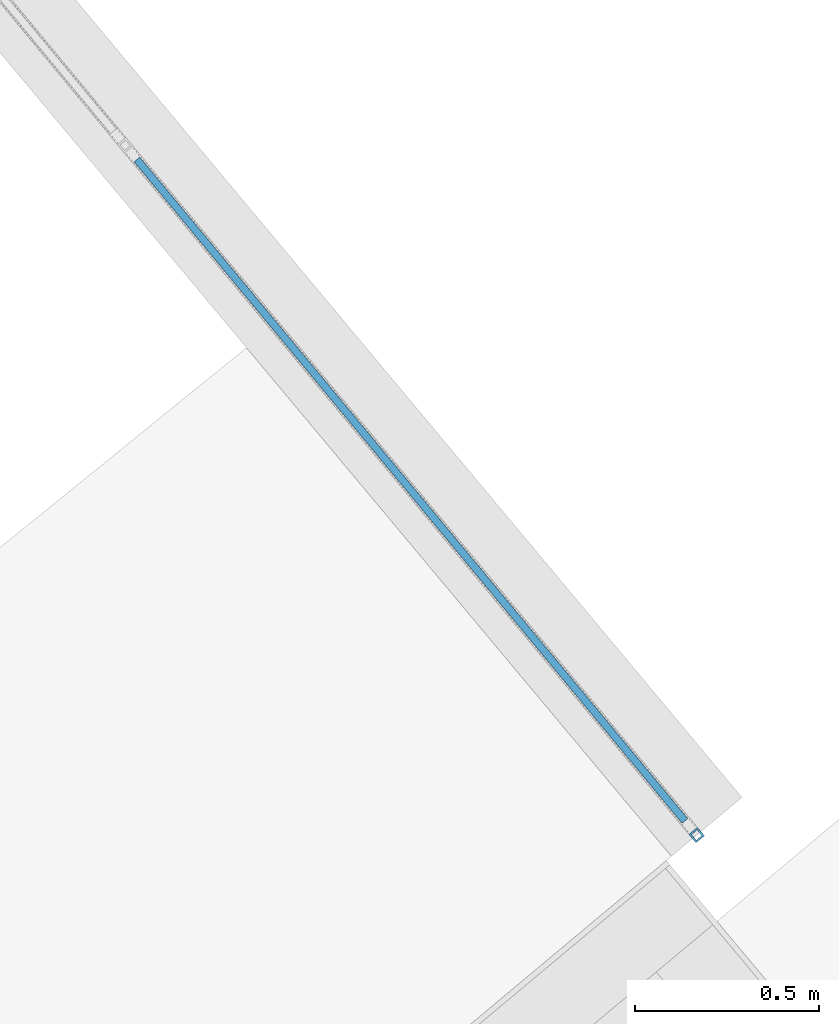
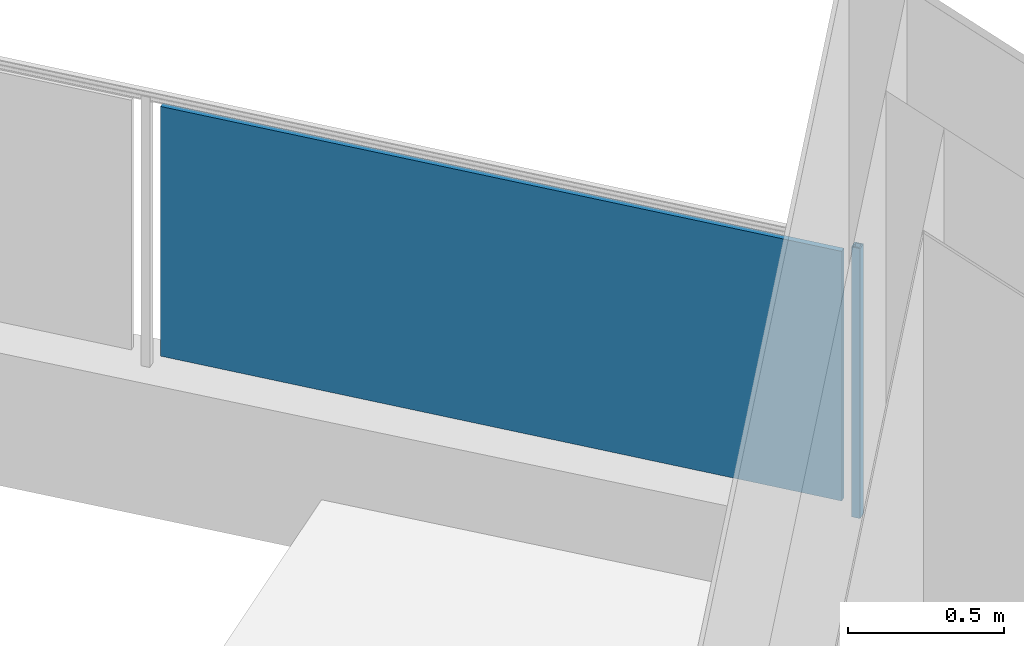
# One storey, part 46 of 67: 2 building element parts, 1 element without a shape of its own.
"""IFC4 building model written with IfcOpenShell, lengths in metres."""

from ifc_helpers import new_model, entity, si_unit, converted_unit, derived_unit, direction, frame, origin_with_axes, place, context, subcontext, project, spatial, polygons, material, type_object, element, aggregate, save


model = new_model("IFC4")

# Units and contexts
model_context = context("Model", 3, precision=1e-05, world=origin_with_axes(), true_north=direction((0.0, 1.0)))
body_context = subcontext(model_context, "Body", "Model", "MODEL_VIEW")
ifc_project = project(units=[si_unit("LENGTHUNIT", "METRE"), si_unit("AREAUNIT", "SQUARE_METRE"), si_unit("VOLUMEUNIT", "CUBIC_METRE"), converted_unit("PLANEANGLEUNIT", "DEGREE", entity("IfcPlaneAngleMeasure", 0.0174532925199), si_unit("PLANEANGLEUNIT", "RADIAN"), dimensions=[0, 0, 0, 0, 0, 0, 0]), converted_unit("TIMEUNIT", "Year", entity("IfcTimeMeasure", 31556926.0), si_unit("TIMEUNIT", "SECOND"), dimensions=[0, 0, 1, 0, 0, 0, 0]), si_unit("MASSUNIT", "GRAM", prefix="KILO"), si_unit("THERMODYNAMICTEMPERATUREUNIT", "DEGREE_CELSIUS"), si_unit("LUMINOUSINTENSITYUNIT", "LUMEN"), si_unit("ENERGYUNIT", "JOULE", prefix="MEGA"), derived_unit("THERMALCONDUCTANCEUNIT", [(si_unit("POWERUNIT", "WATT"), 1), (si_unit("LENGTHUNIT", "METRE"), -1), (si_unit("THERMODYNAMICTEMPERATUREUNIT", "KELVIN"), -1)]), derived_unit("SPECIFICHEATCAPACITYUNIT", [(si_unit("ENERGYUNIT", "JOULE"), 1), (si_unit("MASSUNIT", "GRAM", prefix="KILO"), -1), (si_unit("THERMODYNAMICTEMPERATUREUNIT", "KELVIN"), -1)]), derived_unit("MASSDENSITYUNIT", [(si_unit("MASSUNIT", "GRAM", prefix="KILO"), 1), (si_unit("VOLUMEUNIT", "CUBIC_METRE"), -1)])], contexts=[model_context])

# Site, building, storey
site_placement = place(None, frame((-0.00153261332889, -0.00661245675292, 0.0), z_axis=(0.0, 0.0, 1.0), x_axis=(1.0, 0.0, 0.0)))
site = spatial("IfcSite", under=ifc_project, at=site_placement, Name="Site", CompositionType="ELEMENT")
building_placement = place(site_placement, origin_with_axes())
building = spatial("IfcBuilding", under=site, at=building_placement, Name="Building", CompositionType="ELEMENT")
storey_placement = place(building_placement, frame((0.0, 0.0, -0.22), z_axis=(0.0, 0.0, 1.0), x_axis=(1.0, 0.0, 0.0)))
storey = spatial("IfcBuildingStorey", under=building, at=storey_placement, Name="EG", CompositionType="ELEMENT", Elevation=-0.22)

# Railing, building element parts
railing_type = type_object("IfcRailingType", Name="Geländerart", PredefinedType="NOTDEFINED")
railing_placement = place(storey_placement, frame((0.180685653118, 26.4249004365, 0.523948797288), z_axis=(0.0, 0.0, 1.0), x_axis=(1.0, 0.0, 0.0)))
railing = element("IfcRailing", 1, at=railing_placement, inside=storey, type_object=railing_type, Name="Geländer - 001", PredefinedType="NOTDEFINED")
ifc_material_1 = material(Name="Aluminium")
building_element_part_1_placement = place(railing_placement, origin_with_axes())
building_element_part_1 = element("IfcBuildingElementPart", 2, at=building_element_part_1_placement, material=ifc_material_1, Name="Aluminium", PredefinedType="NOTDEFINED", context=body_context, shape_type="Tessellation", body=[
    polygons([(4.83938872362, 4.02469675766, 0.0), (4.86248969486, 4.04383690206, 0.0), (4.86248969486, 4.04383690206, 1.06), (4.83938872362, 4.02469675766, 1.06), (4.82024857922, 4.0477977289, 0.0), (4.84334955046, 4.0669378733, 0.0), (4.84004886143, 4.0317369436, 0.0), (4.85544950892, 4.04449703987, 0.0), (4.84268941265, 4.05989768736, 0.0), (4.82728876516, 4.04713759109, 0.0), (4.84334955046, 4.0669378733, 1.06), (4.82024857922, 4.0477977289, 1.06), (4.84004886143, 4.0317369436, 1.06), (4.82728876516, 4.04713759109, 1.06), (4.84268941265, 4.05989768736, 1.06), (4.85544950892, 4.04449703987, 1.06)], [[[1, 2, 3, 4]], [[1, 5, 6, 2], [7, 8, 9, 10]], [[2, 6, 11, 3]], [[4, 3, 11, 12], [13, 14, 15, 16]], [[5, 1, 4, 12]], [[6, 5, 12, 11]], [[8, 7, 13, 16]], [[9, 8, 16, 15]], [[10, 9, 15, 14]], [[7, 10, 14, 13]]], closed=True),
])
ifc_material_2 = material(Name="Zaun")
building_element_part_2_placement = place(railing_placement, origin_with_axes())
building_element_part_2 = element("IfcBuildingElementPart", 3, at=building_element_part_2_placement, material=ifc_material_2, Name="Zaun", PredefinedType="NOTDEFINED", context=body_context, shape_type="Tessellation", body=[
    polygons([(4.81716922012, 4.09069898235, 0.05), (3.32672649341, 5.88957122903, 0.05), (3.32672649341, 5.88957122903, 1.03), (4.81716922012, 4.09069898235, 1.03), (3.31132584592, 5.87681113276, 0.05), (4.80176857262, 4.07793888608, 0.05), (3.31132584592, 5.87681113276, 1.03), (4.80176857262, 4.07793888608, 1.03)], [[[1, 2, 3, 4]], [[5, 2, 1, 6]], [[7, 3, 2, 5]], [[4, 3, 7, 8]], [[1, 4, 8, 6]], [[7, 5, 6, 8]]], closed=True),
])
aggregate(railing, [building_element_part_1, building_element_part_2])

save(model, "model.ifc")
